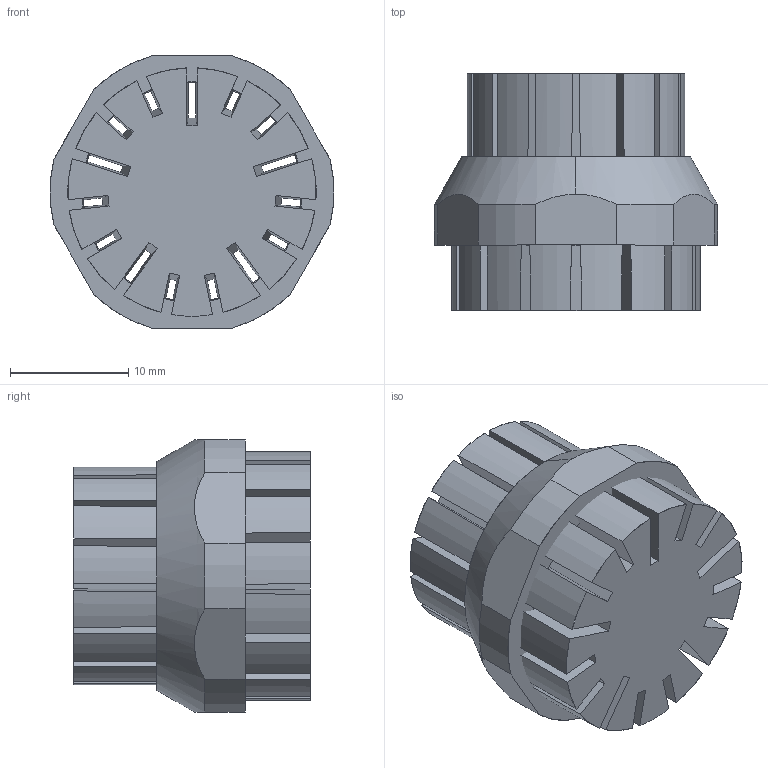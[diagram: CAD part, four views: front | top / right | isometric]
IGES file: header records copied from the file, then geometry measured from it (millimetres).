
Start section: SolidWorks IGES file using analytic representation for surfaces
Global section: file name: P:\SILVENT AB\ENGINEERING\Drawings\Övrigt\IGES\Silvent 705 LP.IGS; native system: SolidWorks 2011; preprocessor: SolidWorks 2011; author: p.svensson; date: 130205.155601; units: millimetre
Bounding box: 24 x 20 x 23 mm (x, y, z)
Surface area: 4513.6 mm2 (no closed solid volume)
Topology: 0 solids, 0 shells, 101 faces, 802 edges, 802 vertices
Faces by surface type: bspline 55, revolution 46
